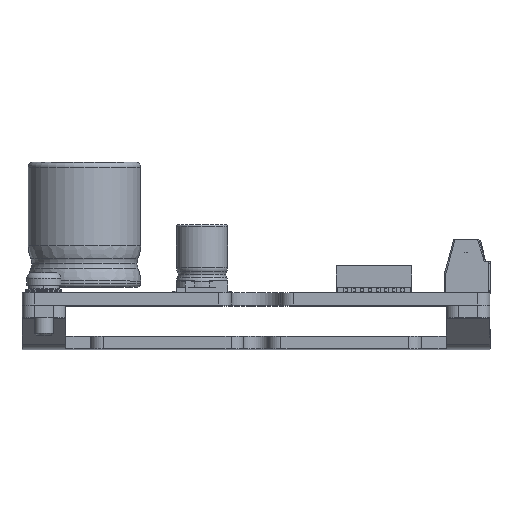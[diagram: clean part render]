
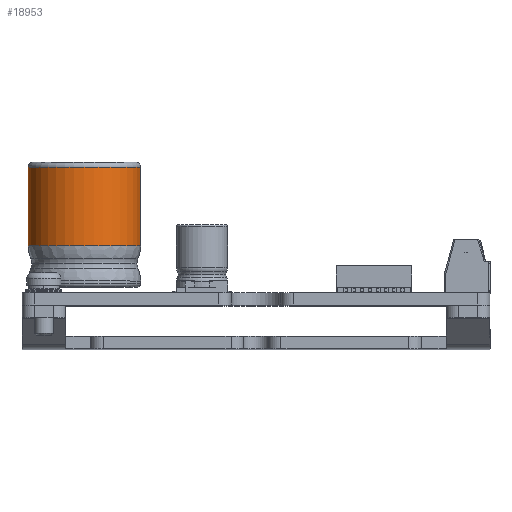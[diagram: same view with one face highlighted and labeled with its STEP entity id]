
A CAD part, top view. The second image highlights one B-rep face of the part: STEP entity #18953.
In plain terms, the highlighted cylindrical face has radius 9 mm (diameter 18 mm), a partial arc.
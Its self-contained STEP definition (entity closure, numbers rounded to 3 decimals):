
#312 = CARTESIAN_POINT ( 'NONE',  ( 10., 32.884, 1.5 ) ) ;
#1014 = CYLINDRICAL_SURFACE ( 'NONE', #30715, 9. ) ;
#2798 = VECTOR ( 'NONE', #17431, 1000. ) ;
#3928 = DIRECTION ( 'NONE',  ( 0., 1., 0. ) ) ;
#4117 = DIRECTION ( 'NONE',  ( -1., 0., -0.007 ) ) ;
#4473 = CARTESIAN_POINT ( 'NONE',  ( 1., 32.884, 1.434 ) ) ;
#5304 = LINE ( 'NONE', #48722, #29042 ) ;
#6753 = VERTEX_POINT ( 'NONE', #21217 ) ;
#10809 = VERTEX_POINT ( 'NONE', #38673 ) ;
#11306 = CIRCLE ( 'NONE', #21868, 9. ) ;
#15286 = ORIENTED_EDGE ( 'NONE', *, *, #31192, .T. ) ;
#17431 = DIRECTION ( 'NONE',  ( 0., 1., 0. ) ) ;
#18953 = ADVANCED_FACE ( 'NONE', ( #24057 ), #1014, .T. ) ;
#19165 = EDGE_CURVE ( 'NONE', #49748, #42175, #5304, .T. ) ;
#20142 = DIRECTION ( 'NONE',  ( 0., -1., 0. ) ) ;
#20384 = ORIENTED_EDGE ( 'NONE', *, *, #28863, .T. ) ;
#21217 = CARTESIAN_POINT ( 'NONE',  ( 1., 29.2, 1.434 ) ) ;
#21868 = AXIS2_PLACEMENT_3D ( 'NONE', #40011, #20142, #48002 ) ;
#23000 = AXIS2_PLACEMENT_3D ( 'NONE', #27720, #44282, #48087 ) ;
#24057 = FACE_OUTER_BOUND ( 'NONE', #48512, .T. ) ;
#24425 = CIRCLE ( 'NONE', #23000, 9. ) ;
#27720 = CARTESIAN_POINT ( 'NONE',  ( 10., 16.56, 1.5 ) ) ;
#28863 = EDGE_CURVE ( 'NONE', #10809, #49748, #24425, .T. ) ;
#29042 = VECTOR ( 'NONE', #36903, 1000. ) ;
#29371 = ORIENTED_EDGE ( 'NONE', *, *, #19165, .T. ) ;
#30715 = AXIS2_PLACEMENT_3D ( 'NONE', #312, #3928, #4117 ) ;
#31192 = EDGE_CURVE ( 'NONE', #42175, #6753, #11306, .T. ) ;
#31977 = CARTESIAN_POINT ( 'NONE',  ( 19., 29.2, 1.566 ) ) ;
#36597 = ORIENTED_EDGE ( 'NONE', *, *, #44144, .F. ) ;
#36903 = DIRECTION ( 'NONE',  ( 0., 1., 0. ) ) ;
#38673 = CARTESIAN_POINT ( 'NONE',  ( 1., 16.56, 1.434 ) ) ;
#40011 = CARTESIAN_POINT ( 'NONE',  ( 10., 29.2, 1.5 ) ) ;
#42175 = VERTEX_POINT ( 'NONE', #31977 ) ;
#44144 = EDGE_CURVE ( 'NONE', #10809, #6753, #45822, .T. ) ;
#44282 = DIRECTION ( 'NONE',  ( 0., 1., 0. ) ) ;
#45822 = LINE ( 'NONE', #4473, #2798 ) ;
#47598 = CARTESIAN_POINT ( 'NONE',  ( 19., 16.56, 1.566 ) ) ;
#48002 = DIRECTION ( 'NONE',  ( -1., 0., -0.007 ) ) ;
#48087 = DIRECTION ( 'NONE',  ( 1., 0., 0.007 ) ) ;
#48512 = EDGE_LOOP ( 'NONE', ( #20384, #29371, #15286, #36597 ) ) ;
#48722 = CARTESIAN_POINT ( 'NONE',  ( 19., 32.884, 1.566 ) ) ;
#49748 = VERTEX_POINT ( 'NONE', #47598 ) ;
